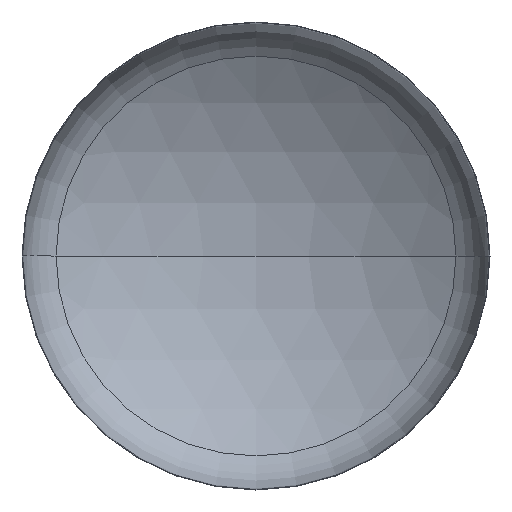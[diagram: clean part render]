
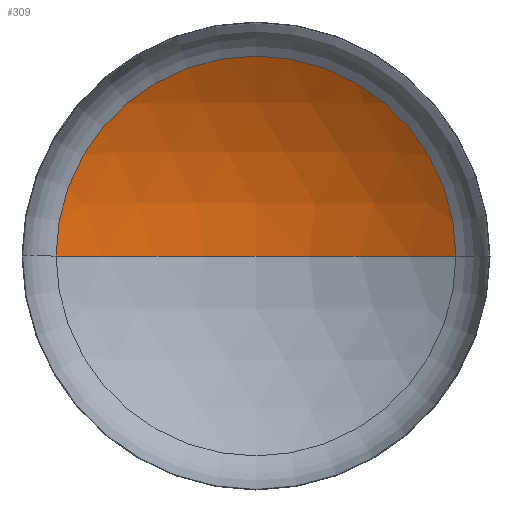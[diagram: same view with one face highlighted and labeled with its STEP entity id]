
A CAD part, front view. The second image highlights one B-rep face of the part: STEP entity #309.
In plain terms, the highlighted spherical face has radius 4800 mm.
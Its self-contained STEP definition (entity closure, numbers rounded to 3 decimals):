
#5 = CIRCLE ( 'NONE', #213, 4800. ) ;
#9 = CARTESIAN_POINT ( 'NONE',  ( 0., 1543.59, 0. ) ) ;
#12 = CARTESIAN_POINT ( 'NONE',  ( 0., -3256.41, 0. ) ) ;
#16 = ORIENTED_EDGE ( 'NONE', *, *, #236, .T. ) ;
#23 = VERTEX_POINT ( 'NONE', #248 ) ;
#68 = CIRCLE ( 'NONE', #390, 4800. ) ;
#85 = AXIS2_PLACEMENT_3D ( 'NONE', #290, #111, #319 ) ;
#90 = VERTEX_POINT ( 'NONE', #314 ) ;
#105 = SPHERICAL_SURFACE ( 'NONE', #359, 4800. ) ;
#109 = EDGE_LOOP ( 'NONE', ( #269, #16, #140 ) ) ;
#111 = DIRECTION ( 'NONE',  ( 0., -1., 0. ) ) ;
#140 = ORIENTED_EDGE ( 'NONE', *, *, #202, .T. ) ;
#151 = DIRECTION ( 'NONE',  ( 0., 0., -1. ) ) ;
#152 = DIRECTION ( 'NONE',  ( -1., 0., 0. ) ) ;
#157 = EDGE_CURVE ( 'NONE', #201, #90, #68, .T. ) ;
#201 = VERTEX_POINT ( 'NONE', #9 ) ;
#202 = EDGE_CURVE ( 'NONE', #23, #90, #297, .T. ) ;
#204 = FACE_OUTER_BOUND ( 'NONE', #109, .T. ) ;
#206 = DIRECTION ( 'NONE',  ( 1., 0., 0. ) ) ;
#207 = DIRECTION ( 'NONE',  ( 0., 0., 1. ) ) ;
#213 = AXIS2_PLACEMENT_3D ( 'NONE', #12, #151, #152 ) ;
#236 = EDGE_CURVE ( 'NONE', #201, #23, #5, .T. ) ;
#248 = CARTESIAN_POINT ( 'NONE',  ( 2562.89, 802.111, 0. ) ) ;
#269 = ORIENTED_EDGE ( 'NONE', *, *, #157, .F. ) ;
#290 = CARTESIAN_POINT ( 'NONE',  ( 0., 802.111, 0. ) ) ;
#297 = CIRCLE ( 'NONE', #85, 2562.89 ) ;
#298 = CARTESIAN_POINT ( 'NONE',  ( 0., -3256.41, 0. ) ) ;
#309 = ADVANCED_FACE ( 'NONE', ( #204 ), #105, .F. ) ;
#314 = CARTESIAN_POINT ( 'NONE',  ( -2562.89, 802.111, 0. ) ) ;
#319 = DIRECTION ( 'NONE',  ( 1., 0., 0. ) ) ;
#332 = CARTESIAN_POINT ( 'NONE',  ( 0., -3256.41, 0. ) ) ;
#350 = DIRECTION ( 'NONE',  ( 0., 0., -1. ) ) ;
#359 = AXIS2_PLACEMENT_3D ( 'NONE', #332, #350, #372 ) ;
#372 = DIRECTION ( 'NONE',  ( -1., 0., 0. ) ) ;
#390 = AXIS2_PLACEMENT_3D ( 'NONE', #298, #207, #206 ) ;
